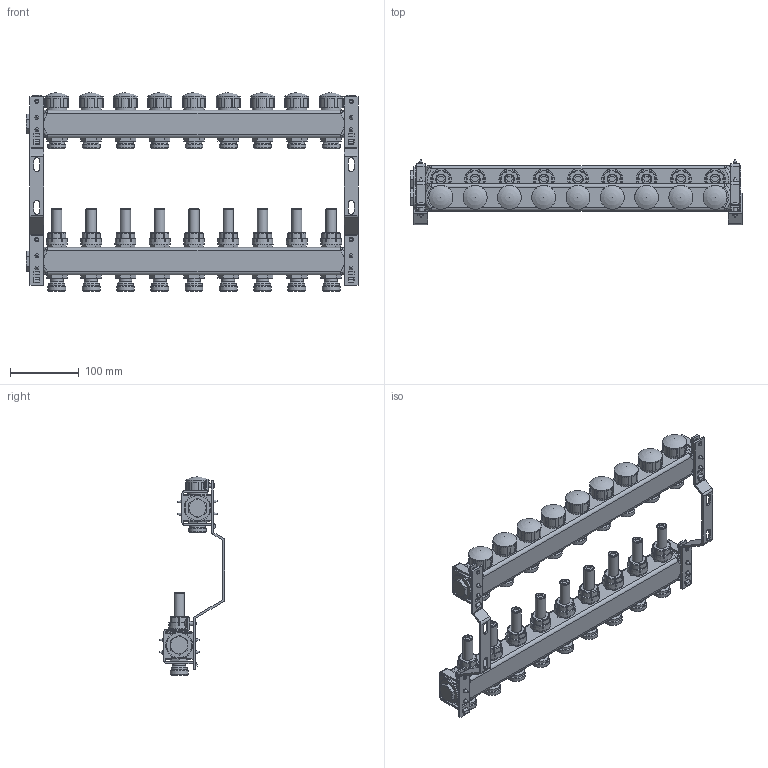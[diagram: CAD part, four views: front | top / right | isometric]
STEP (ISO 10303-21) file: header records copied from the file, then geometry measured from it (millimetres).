
FILE_DESCRIPTION(('STEP AP203'), '1');
FILE_NAME('VTc.584.EMNX.0609', '', ('UNSPECIFIED'), ('UNSPECIFIED'), 'C3D Converter', 'C3D Toolkit', '');
FILE_SCHEMA(('CONFIG_CONTROL_DESIGN'));
Length unit declared in the file: millimetre
Bounding box: 484.2 x 95.7 x 289.2 mm (x, y, z)
Volume: 2065447.6 mm3; surface area: 296889.2 mm2
Topology: 1 solids, 1 shells, 1729 faces, 4745 edges, 3079 vertices
Faces by surface type: plane 1092, cylinder 373, torus 123, cone 96, bspline 36, sphere 9
Full cylindrical faces by diameter (mm): 5.4 x16, 6 x8, 12 x4, 15 x9, 18.4 x9, 22.9 x9, 23.5 x9, 25.9 x9, 26 x9, 29.5 x9, 34.9 x9, 35.3 x2, 36.5 x2, 39.3 x4
Entity records: 66801 total; most frequent: CARTESIAN_POINT 23877, ORIENTED_EDGE 8996, DIRECTION 8580, EDGE_CURVE 4498, VERTEX_POINT 3066, AXIS2_PLACEMENT_3D 2932, LINE 2716, VECTOR 2716
